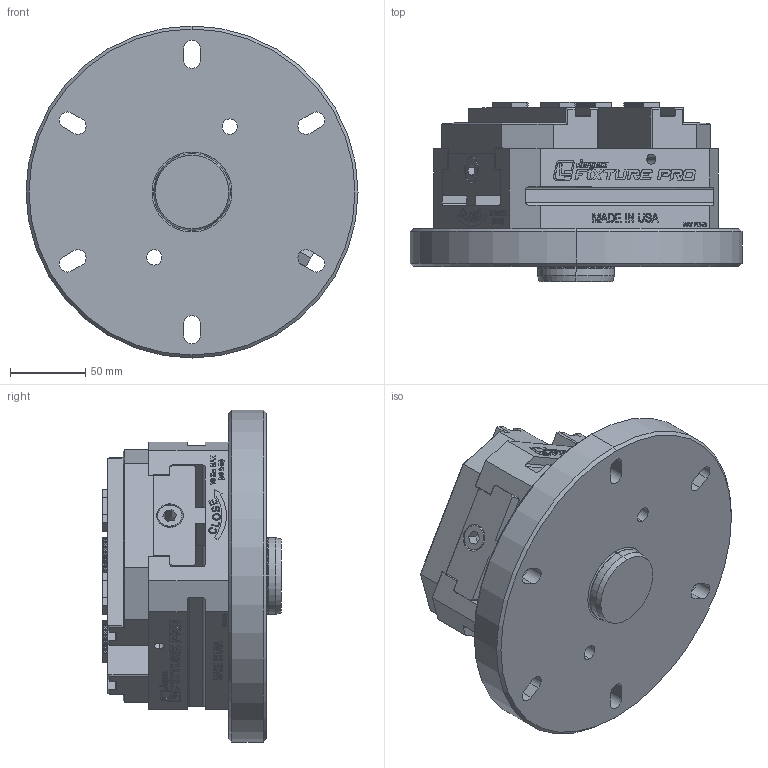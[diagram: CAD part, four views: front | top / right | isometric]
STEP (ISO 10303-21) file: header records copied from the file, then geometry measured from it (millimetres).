
FILE_DESCRIPTION (( 'STEP AP214' ), '1' );
FILE_NAME ('05-0400_05-0221.STEP', '2022-11-10T17:03:13', ( '' ), ( '' ), 'SwSTEP 2.0', 'SolidWorks 2021', '' );
FILE_SCHEMA (( 'AUTOMOTIVE_DESIGN' ));
Length unit declared in the file: inch
Products named in the file (3): 05-0400; 05-0400_05-0221; 05-0221
Assembly tree (2 placements, depth 2):
  05-0400_05-0221
    05-0221
    05-0400
Bounding box: 220 x 118.56 x 220 mm (x, y, z)
Volume: 919749.2 mm3; surface area: 271638.5 mm2
Topology: 1 solids, 278 shells, 1958 faces, 7787 edges, 5976 vertices
Faces by surface type: plane 1592, cylinder 241, cone 77, bspline 44, torus 4
Entity records: 114162 total; most frequent: CARTESIAN_POINT 27157, DIRECTION 11779, ORIENTED_EDGE 10689, EDGE_CURVE 7787, LINE 6285, VECTOR 6285, VERTEX_POINT 5976, AXIS2_PLACEMENT_3D 2747
